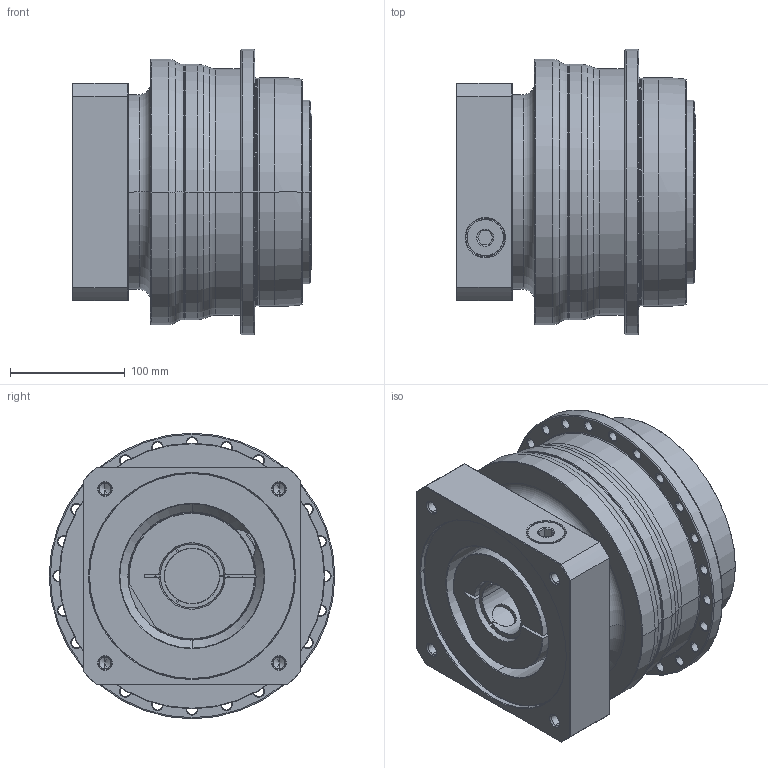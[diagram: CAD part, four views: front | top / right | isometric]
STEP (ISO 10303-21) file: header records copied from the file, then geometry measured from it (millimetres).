
FILE_DESCRIPTION((''),'2;1');
FILE_NAME('AP200_1ST_48-P0409B10201_ASM','2018-05-25T',('d01226'),(''),'PRO/ENGINEER BY PARAMETRIC TECHNOLOGY CORPORATION, 2008410','PRO/ENGINEER BY PARAMETRIC TECHNOLOGY CORPORATION, 2008410','');
FILE_SCHEMA(('CONFIG_CONTROL_DESIGN'));
Length unit declared in the file: millimetre
Products named in the file (9): P0278601003; P0359601103; P1318610401; P0503B00016; P0912654001; P1211600001; P0409B10201; 21711426021; AP200_1ST_48-P0409B10201_ASM
Assembly tree (8 placements, depth 2):
  AP200_1ST_48-P0409B10201_ASM
    P0278601003
    P0359601103
    P1318610401
    P0503B00016
    P0912654001
    P1211600001
    P0409B10201
    21711426021
Bounding box: 209.5 x 249.5 x 249.5 mm (x, y, z)
Volume: 6321270.5 mm3; surface area: 607100.4 mm2
Topology: 9 solids, 34 shells, 643 faces, 1547 edges, 958 vertices
Faces by surface type: cylinder 273, cone 176, plane 108, torus 72, bspline 14
Entity records: 24043 total; most frequent: CARTESIAN_POINT 8268, DIRECTION 3617, ORIENTED_EDGE 2976, AXIS2_PLACEMENT_3D 1552, EDGE_CURVE 1539, VERTEX_POINT 958, CIRCLE 896, EDGE_LOOP 783
